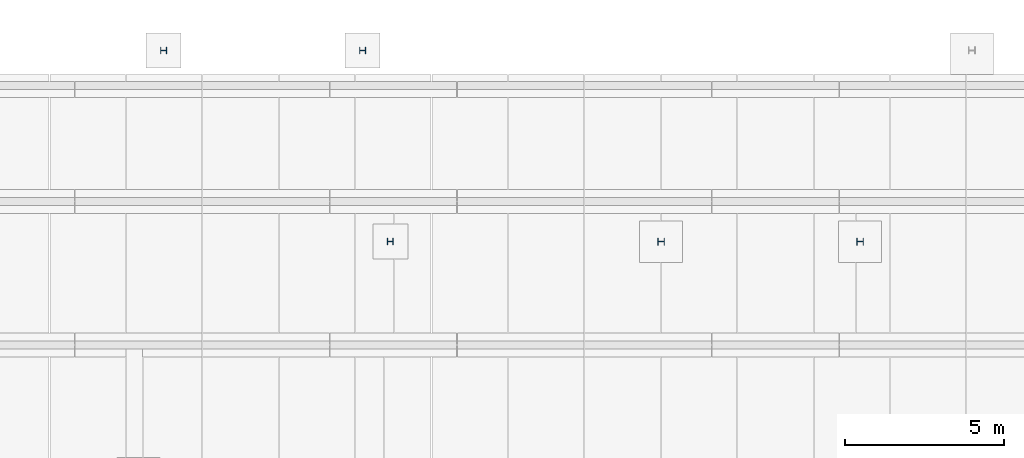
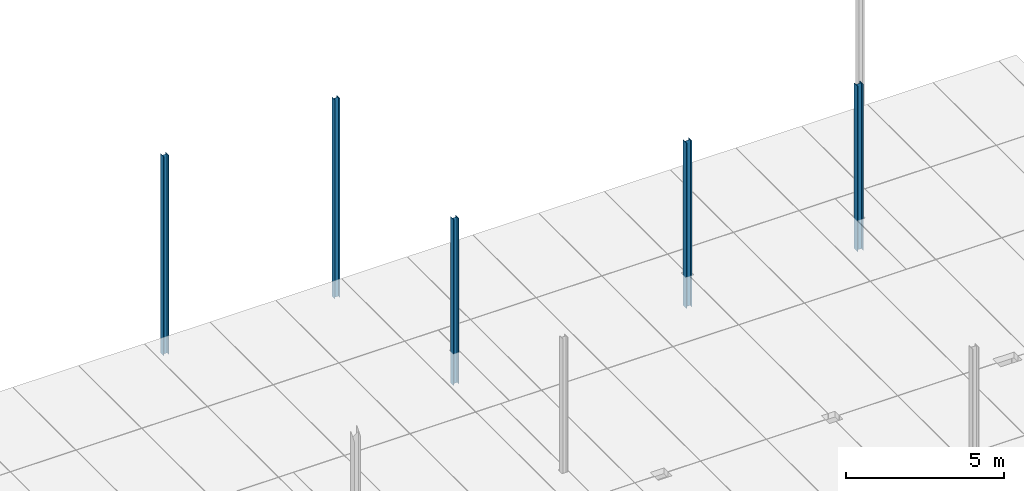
# One storey, part 41 of 59: 5 columns.
"""IFC2X3 building model written with IfcOpenShell, lengths in metres."""

from ifc_helpers import new_model, entity, si_unit, converted_unit, derived_unit, frame, origin, origin_with_axes, place, context, subcontext, project, spatial, polyline, outline, extrude, material, element, save


model = new_model("IFC2X3")

# Units and contexts
model_context = context("Model", 3, precision=1e-05, world=origin())
body_context = subcontext(model_context, "Body", "Model", "MODEL_VIEW")
ifc_project = project(units=[si_unit("LENGTHUNIT", "METRE"), si_unit("AREAUNIT", "SQUARE_METRE"), si_unit("VOLUMEUNIT", "CUBIC_METRE"), si_unit("MASSUNIT", "GRAM", prefix="KILO"), converted_unit("PLANEANGLEUNIT", "DEGREE", entity("IfcPlaneAngleMeasure", 0.0174532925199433), si_unit("PLANEANGLEUNIT", "RADIAN"), dimensions=[0, 0, 0, 0, 0, 0, 0]), derived_unit("THERMALTRANSMITTANCEUNIT", [(si_unit("POWERUNIT", "WATT"), 1), (si_unit("THERMODYNAMICTEMPERATUREUNIT", "KELVIN"), -1), (si_unit("LENGTHUNIT", "METRE"), -2)]), derived_unit("VOLUMETRICFLOWRATEUNIT", [(si_unit("LENGTHUNIT", "METRE"), 3), (converted_unit("TIMEUNIT", "hour", entity("IfcTimeMeasure", 3600.0), si_unit("TIMEUNIT", "SECOND"), dimensions=[0, 0, 1, 0, 0, 0, 0]), -1), (si_unit("LENGTHUNIT", "METRE"), -1)])], contexts=[model_context])

# Site, building, storey
site_placement = place(None, origin())
site = spatial("IfcSite", under=ifc_project, at=site_placement, Name="TWP_Speiseverteilzentrum SBW VZ II", CompositionType="ELEMENT")
building_placement = place(site_placement, origin())
building = spatial("IfcBuilding", under=site, at=building_placement, Name="Speiseverteilzentrum SBW VZ II", CompositionType="ELEMENT")
storey_placement = place(building_placement, frame((0.0, 0.0, 1.7307)))
storey = spatial("IfcBuildingStorey", under=building, at=storey_placement, Name="EG_Produktion_FFB", CompositionType="ELEMENT", Elevation=1.7307)

# Columns
ifc_material_1 = material(Name="S235")
column_1_placement = place(storey_placement, frame((66.145, 79.437433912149, -1.5)))
element("IfcColumn", 1, at=column_1_placement, inside=storey, material=ifc_material_1, Name="Stahlstütze", context=body_context, shape_type="SweptSolid", body=[
    extrude(outline(polyline([(0.21, 0.0), (0.21, 0.22), (0.199, 0.22), (0.199, 0.1135), (0.011, 0.1135), (0.011, 0.22), (0.0, 0.22), (0.0, 0.0), (0.011, 0.0), (0.011, 0.1065), (0.199, 0.1065), (0.199, 0.0), (0.21, 0.0)])), origin_with_axes(), (0.0, 0.0, 1.0), 6.4),
])
ifc_material_2 = material(Name="S235")
column_2_placement = place(storey_placement, frame((59.895, 79.437433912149, -1.5)))
element("IfcColumn", 2, at=column_2_placement, inside=storey, material=ifc_material_2, Name="Stahlstütze", context=body_context, shape_type="SweptSolid", body=[
    extrude(outline(polyline([(0.21, 0.0), (0.21, 0.22), (0.199, 0.22), (0.199, 0.1135), (0.011, 0.1135), (0.011, 0.22), (0.0, 0.22), (0.0, 0.0), (0.011, 0.0), (0.011, 0.1065), (0.199, 0.1065), (0.199, 0.0), (0.21, 0.0)])), origin_with_axes(), (0.0, 0.0, 1.0), 6.4),
])
ifc_material_3 = material(Name="S235")
column_3_placement = place(storey_placement, frame((51.3996040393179, 79.447433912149, -1.5)))
element("IfcColumn", 3, at=column_3_placement, inside=storey, material=ifc_material_3, Name="Stahlstütze", context=body_context, shape_type="SweptSolid", body=[
    extrude(outline(polyline([(0.19, 0.0), (0.19, 0.2), (0.18, 0.2), (0.18, 0.10325), (0.01, 0.10325), (0.01, 0.2), (0.0, 0.2), (0.0, 0.0), (0.01, 0.0), (0.01, 0.09675), (0.18, 0.09675), (0.18, 0.0), (0.19, 0.0)])), origin_with_axes(), (0.0, 0.0, 1.0), 6.4),
])
ifc_material_4 = material(Name="S235")
column_4_placement = place(storey_placement, frame((50.53, 85.4500000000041, -1.5)))
element("IfcColumn", 4, at=column_4_placement, inside=storey, material=ifc_material_4, Name="Stahlstütze", context=body_context, shape_type="SweptSolid", body=[
    extrude(outline(polyline([(0.19, 0.0), (0.19, 0.2), (0.18, 0.2), (0.18, 0.10325), (0.01, 0.10325), (0.01, 0.2), (0.0, 0.2), (0.0, 0.0), (0.01, 0.0), (0.01, 0.09675), (0.18, 0.09675), (0.18, 0.0), (0.19, 0.0)])), origin_with_axes(), (0.0, 0.0, 1.0), 7.6893),
])
ifc_material_5 = material(Name="S235")
column_5_placement = place(storey_placement, frame((44.28, 85.4500000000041, -1.5)))
element("IfcColumn", 5, at=column_5_placement, inside=storey, material=ifc_material_5, Name="Stahlstütze", context=body_context, shape_type="SweptSolid", body=[
    extrude(outline(polyline([(0.19, 0.0), (0.19, 0.2), (0.18, 0.2), (0.18, 0.10325), (0.01, 0.10325), (0.01, 0.2), (0.0, 0.2), (0.0, 0.0), (0.01, 0.0), (0.01, 0.09675), (0.18, 0.09675), (0.18, 0.0), (0.19, 0.0)])), origin_with_axes(), (0.0, 0.0, 1.0), 7.6893),
])

save(model, "model.ifc")
